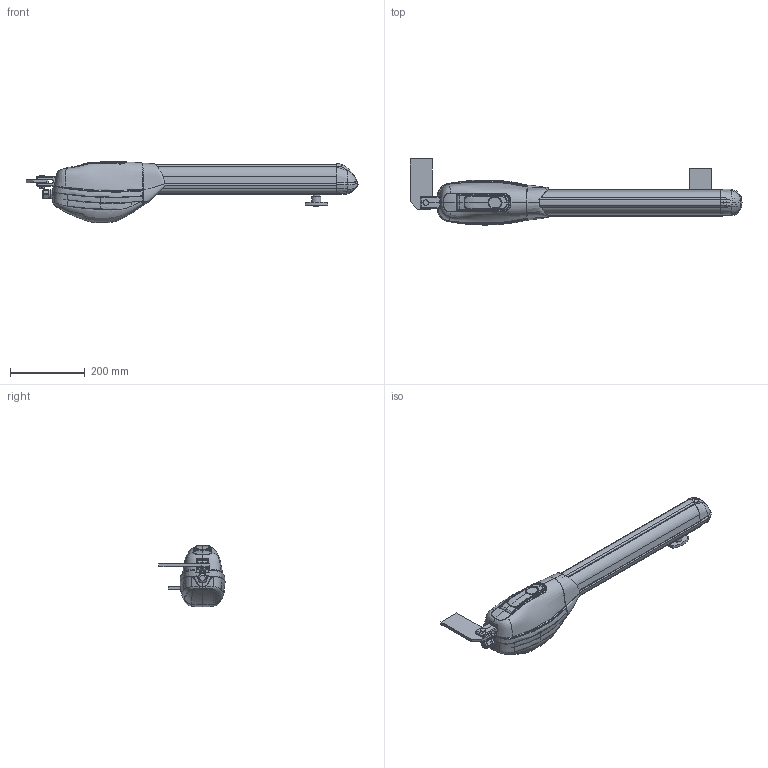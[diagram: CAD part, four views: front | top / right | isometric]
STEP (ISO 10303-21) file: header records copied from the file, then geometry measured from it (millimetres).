
FILE_DESCRIPTION (( 'STEP AP214' ), '1' );
FILE_NAME ('R20 CORTO.STEP', '2017-03-13T07:38:34', ( 'admin' ), ( 'Microsoft' ), 'SwSTEP 2.0', 'SolidWorks 2016', '' );
FILE_SCHEMA (( 'AUTOMOTIVE_DESIGN' ));
Length unit declared in the file: millimetre
Products named in the file (1): R20 CORTO
Bounding box: 889.14 x 177.33 x 164.81 mm (x, y, z)
Volume: 5828262.8 mm3; surface area: 500630.2 mm2
Topology: 19 solids, 19 shells, 635 faces, 1857 edges, 1256 vertices
Faces by surface type: bspline 334, cylinder 137, plane 128, cone 34, torus 2
Entity records: 157521 total; most frequent: CARTESIAN_POINT 143823, ORIENTED_EDGE 3686, EDGE_CURVE 1843, DIRECTION 1445, VERTEX_POINT 1254, B_SPLINE_CURVE_WITH_KNOTS 1202, EDGE_LOOP 649, ADVANCED_FACE 633
